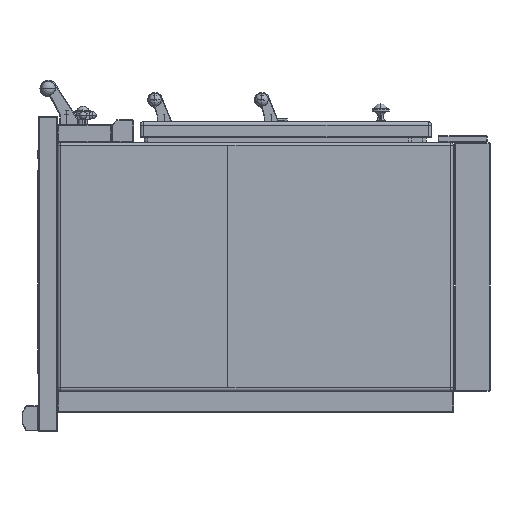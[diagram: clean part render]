
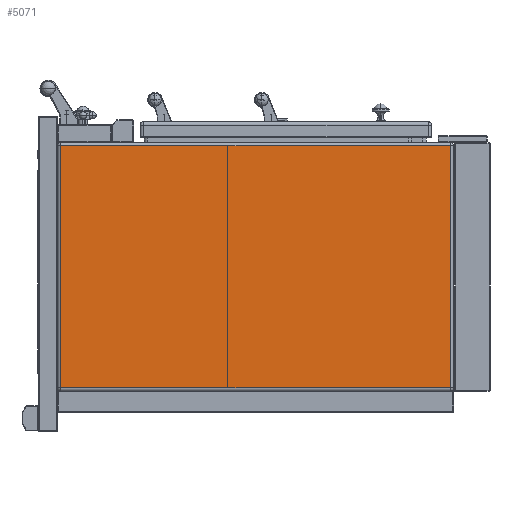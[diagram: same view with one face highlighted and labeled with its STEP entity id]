
A CAD part, left-side view. The second image highlights one B-rep face of the part: STEP entity #5071.
In plain terms, the highlighted planar face has unit normal (-1, 0, 0).
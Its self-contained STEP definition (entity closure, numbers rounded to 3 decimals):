
#473=DIRECTION('',(0.,1.,0.));
#474=VECTOR('',#473,801.);
#475=CARTESIAN_POINT('',(-900.,82.,249.));
#476=LINE('',#475,#474);
#477=DIRECTION('',(0.,0.,1.));
#478=VECTOR('',#477,498.);
#479=CARTESIAN_POINT('',(-900.,82.,-249.));
#480=LINE('',#479,#478);
#481=DIRECTION('',(0.,-1.,0.));
#482=VECTOR('',#481,801.);
#483=CARTESIAN_POINT('',(-900.,883.,-249.));
#484=LINE('',#483,#482);
#485=DIRECTION('',(0.,0.,-1.));
#486=VECTOR('',#485,498.);
#487=CARTESIAN_POINT('',(-900.,883.,249.));
#488=LINE('',#487,#486);
#3499=CARTESIAN_POINT('',(-900.,82.,249.));
#3500=CARTESIAN_POINT('',(-900.,883.,249.));
#3501=VERTEX_POINT('',#3499);
#3502=VERTEX_POINT('',#3500);
#3503=CARTESIAN_POINT('',(-900.,82.,-249.));
#3504=VERTEX_POINT('',#3503);
#3521=CARTESIAN_POINT('',(-900.,883.,-249.));
#3522=VERTEX_POINT('',#3521);
#5058=CARTESIAN_POINT('',(-900.,0.,0.));
#5059=DIRECTION('',(1.,0.,0.));
#5060=DIRECTION('',(0.,0.,-1.));
#5061=AXIS2_PLACEMENT_3D('',#5058,#5059,#5060);
#5062=PLANE('',#5061);
#5063=ORIENTED_EDGE('',*,*,#5003,.F.);
#5064=ORIENTED_EDGE('',*,*,#5041,.F.);
#5066=ORIENTED_EDGE('',*,*,#5065,.F.);
#5068=ORIENTED_EDGE('',*,*,#5067,.F.);
#5069=EDGE_LOOP('',(#5063,#5064,#5066,#5068));
#5070=FACE_OUTER_BOUND('',#5069,.F.);
#5003=EDGE_CURVE('',#3501,#3502,#476,.T.);
#5041=EDGE_CURVE('',#3504,#3501,#480,.T.);
#5065=EDGE_CURVE('',#3522,#3504,#484,.T.);
#5067=EDGE_CURVE('',#3502,#3522,#488,.T.);
#5071=ADVANCED_FACE('',(#5070),#5062,.F.);
